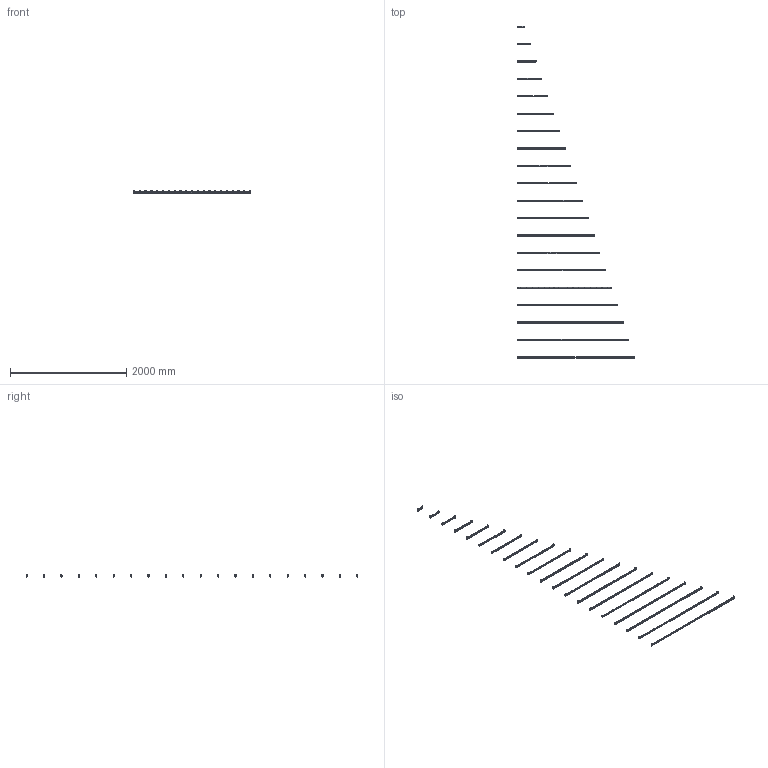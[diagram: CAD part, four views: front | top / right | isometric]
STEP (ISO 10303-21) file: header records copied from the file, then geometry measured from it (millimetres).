
FILE_DESCRIPTION(/* description */ (''),/* implementation_level */ '2;1');
FILE_NAME(/* name */ 'C:/Users/elena/OneDrive/Allegati di posta elettronica/Desktop/Piko palpebra 01A.step',/* time_stamp */ '2020-05-20T16:08:37+02:00',/* author */ (''),/* organization */ (''),/* preprocessor_version */ 'ST-DEVELOPER v18.1',/* originating_system */ 'Autodesk Translation Framework v9.3.0.1241',/* authorisation */ '');
FILE_SCHEMA (('AUTOMOTIVE_DESIGN { 1 0 10303 214 3 1 1 }'));
Products named in the file (3): Piko palpebra 01A; 01A; Palpebra
Assembly tree (2 placements, depth 2):
  Piko palpebra 01A
    01A
    Palpebra
Bounding box: 2022 x 5720.97 x 45.14 mm (x, y, z)
Volume: 6181932.3 mm3; surface area: 4263299.8 mm2
Topology: 140 solids, 140 shells, 9798 faces, 27234 edges, 17916 vertices
Faces by surface type: plane 5479, cylinder 4079, bspline 200, cone 40
Full cylindrical faces by diameter (mm): 2.5 x80, 3 x40, 7 x80, 19.8 x40
Entity records: 342046 total; most frequent: CARTESIAN_POINT 83442, ORIENTED_EDGE 54468, DIRECTION 54396, EDGE_CURVE 27234, LINE 18636, VECTOR 18636, VERTEX_POINT 17916, AXIS2_PLACEMENT_3D 17880
